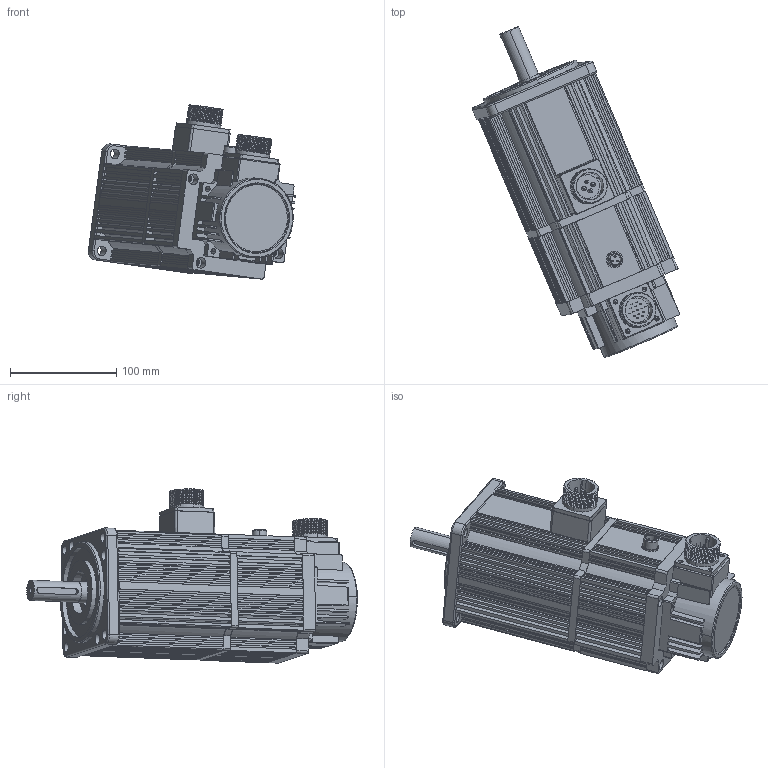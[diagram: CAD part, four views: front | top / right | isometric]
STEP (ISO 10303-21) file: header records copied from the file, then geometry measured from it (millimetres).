
FILE_DESCRIPTION (( 'STEP AP203' ), '1' );
FILE_NAME ('110 4N.M抱闸装配体.STEP', '2019-12-13T03:05:47', ( '微软用户' ), ( '微软公司' ), 'SwSTEP 2.0', 'SolidWorks 2016', '' );
FILE_SCHEMA (( 'CONFIG_CONTROL_DESIGN' ));
Length unit declared in the file: millimetre
Products named in the file (13): 110萇棠惕掅儂褲; 110綴傷裔; 晤鎢ん欶; 130 4郋瑤脣; 6304; 130瑤脣價釱; 110 粣; 15郋瑤脣; 110ヶ傷裔; 惕掅脣芛; 110儂褲; 110  4N.M惕掅蚾饜极; 110惕掅綴裔
Assembly tree (12 placements, depth 2):
  110  4N.M惕掅蚾饜极
    6304
    110 粣
    110ヶ傷裔
    110儂褲
    110惕掅綴裔
    110萇棠惕掅儂褲
    110綴傷裔
    晤鎢ん欶
    130 4郋瑤脣
    130瑤脣價釱
    15郋瑤脣
    惕掅脣芛
Bounding box: 194.9 x 310.74 x 163.73 mm (x, y, z)
Volume: 891375.5 mm3; surface area: 445533.6 mm2
Topology: 13 solids, 13 shells, 1647 faces, 4484 edges, 2905 vertices
Faces by surface type: plane 864, cylinder 629, torus 75, sphere 36, cone 35, bspline 8
Entity records: 56929 total; most frequent: CARTESIAN_POINT 13692, ORIENTED_EDGE 8816, DIRECTION 8726, EDGE_CURVE 4408, AXIS2_PLACEMENT_3D 2985, VERTEX_POINT 2881, LINE 2756, VECTOR 2756
